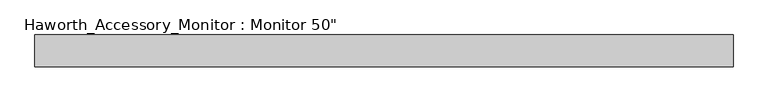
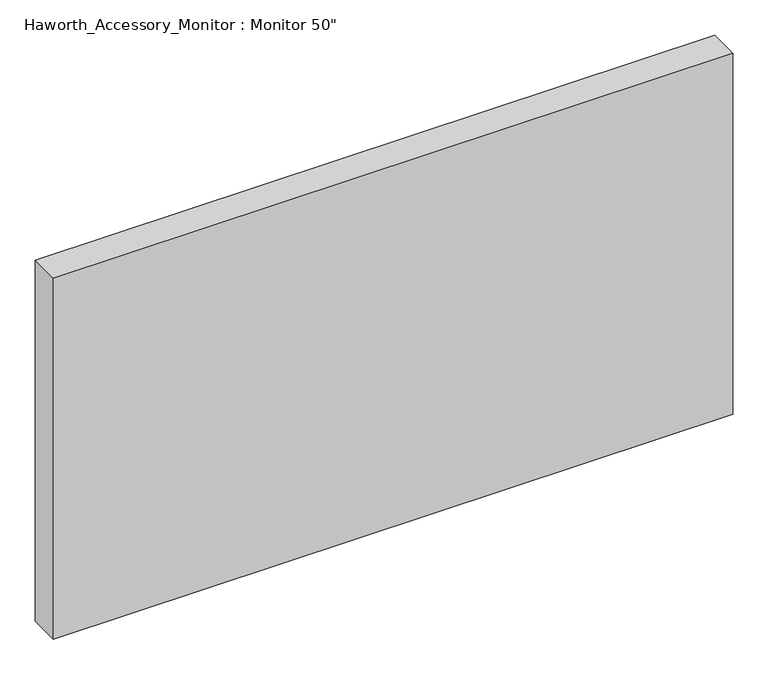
"""IFC4 building model written with IfcOpenShell, lengths in millimetres: furniture geometry."""

from ifc_helpers import new_model, si_unit, origin, origin_with_axes, place, context, project, spatial, polyline, outline, extrude, source, transform, mapped, element, save


def furniture_707b3127(model_context):
    return source(origin(), model_context, "Body", "SweptSolid", [
        extrude(outline(polyline([(1011.9825593, -12.7), (-95.4971282, -12.7), (-95.4971282, 38.1), (1011.9825593, 38.1), (1011.9825593, -12.7)])), origin_with_axes(), (0.0, 0.0, 1.0), 622.3),
    ])


if __name__ == "__main__":
    model = new_model("IFC4")
    model_context = context("Model", 3, world=origin())
    ifc_project = project(units=[si_unit("LENGTHUNIT", "METRE", prefix="MILLI")], contexts=[model_context])
    site = spatial("IfcSite", under=ifc_project)
    building = spatial("IfcBuilding", under=site)
    placement = place(None, origin())
    furniture_shape = furniture_707b3127(model_context)
    element("IfcFurniture", 1, ObjectType="Haworth_Accessory_Monitor : Monitor 50\"", at=placement, inside=building, context=model_context, shape_type="MappedRepresentation", body=[
        mapped(furniture_shape, transform((0.0, 0.0, 0.0), x_axis=(1.0, 0.0, 0.0), y_axis=(0.0, 1.0, 0.0), z_axis=(0.0, 0.0, 1.0))),
    ])
    save(model, "model.ifc")
